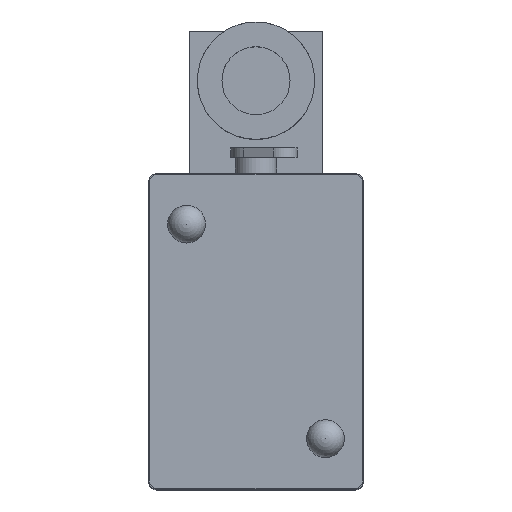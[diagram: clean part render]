
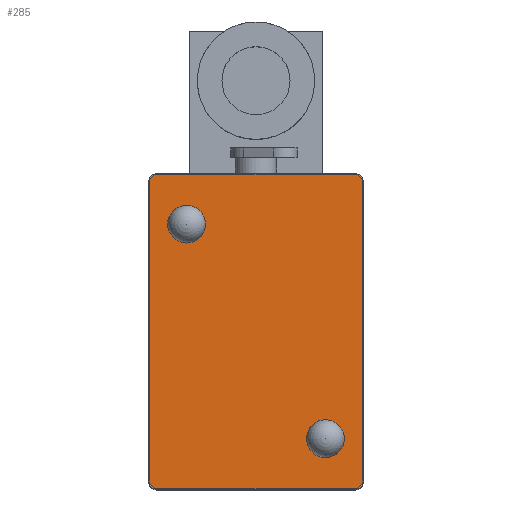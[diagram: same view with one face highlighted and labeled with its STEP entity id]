
A CAD part, top view. The second image highlights one B-rep face of the part: STEP entity #285.
In plain terms, the highlighted planar face has unit normal (0, 0, 1).
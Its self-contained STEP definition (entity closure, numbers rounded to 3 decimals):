
#285 = ADVANCED_FACE( '', ( #621, #622, #623 ), #624, .T. );
#621 = FACE_BOUND( '', #978, .T. );
#622 = FACE_BOUND( '', #979, .T. );
#623 = FACE_OUTER_BOUND( '', #980, .T. );
#624 = PLANE( '', #981 );
#978 = EDGE_LOOP( '', ( #1646 ) );
#979 = EDGE_LOOP( '', ( #1647 ) );
#980 = EDGE_LOOP( '', ( #1648, #1649, #1650, #1651, #1652, #1653, #1654, #1655 ) );
#981 = AXIS2_PLACEMENT_3D( '', #1656, #1657, #1658 );
#1646 = ORIENTED_EDGE( '', *, *, #2001, .T. );
#1647 = ORIENTED_EDGE( '', *, *, #1978, .T. );
#1648 = ORIENTED_EDGE( '', *, *, #2125, .T. );
#1649 = ORIENTED_EDGE( '', *, *, #2126, .T. );
#1650 = ORIENTED_EDGE( '', *, *, #1981, .T. );
#1651 = ORIENTED_EDGE( '', *, *, #2004, .T. );
#1652 = ORIENTED_EDGE( '', *, *, #2024, .T. );
#1653 = ORIENTED_EDGE( '', *, *, #1885, .T. );
#1654 = ORIENTED_EDGE( '', *, *, #1898, .T. );
#1655 = ORIENTED_EDGE( '', *, *, #2127, .T. );
#1656 = CARTESIAN_POINT( '', ( -15.7, 23.7, 10. ) );
#1657 = DIRECTION( '', ( 0., 0., 1. ) );
#1658 = DIRECTION( '', ( 1., 0., 0. ) );
#1885 = EDGE_CURVE( '', #2206, #2204, #2207, .T. );
#1898 = EDGE_CURVE( '', #2204, #2226, #2228, .T. );
#1978 = EDGE_CURVE( '', #2367, #2367, #2368, .T. );
#1981 = EDGE_CURVE( '', #2372, #2370, #2373, .T. );
#2001 = EDGE_CURVE( '', #2403, #2403, #2404, .T. );
#2004 = EDGE_CURVE( '', #2370, #2406, #2408, .T. );
#2024 = EDGE_CURVE( '', #2406, #2206, #2437, .T. );
#2125 = EDGE_CURVE( '', #2569, #2570, #2571, .T. );
#2126 = EDGE_CURVE( '', #2570, #2372, #2572, .T. );
#2127 = EDGE_CURVE( '', #2226, #2569, #2573, .T. );
#2204 = VERTEX_POINT( '', #2714 );
#2206 = VERTEX_POINT( '', #2717 );
#2207 = LINE( '', #2718, #2719 );
#2226 = VERTEX_POINT( '', #2741 );
#2228 = CIRCLE( '', #2744, 1.2 );
#2367 = VERTEX_POINT( '', #2919 );
#2368 = CIRCLE( '', #2920, 3. );
#2370 = VERTEX_POINT( '', #2922 );
#2372 = VERTEX_POINT( '', #2925 );
#2373 = CIRCLE( '', #2926, 1.2 );
#2403 = VERTEX_POINT( '', #2960 );
#2404 = CIRCLE( '', #2961, 3. );
#2406 = VERTEX_POINT( '', #2963 );
#2408 = LINE( '', #2966, #2967 );
#2437 = CIRCLE( '', #3026, 1.2 );
#2569 = VERTEX_POINT( '', #3251 );
#2570 = VERTEX_POINT( '', #3252 );
#2571 = CIRCLE( '', #3253, 1.2 );
#2572 = LINE( '', #3254, #3255 );
#2573 = LINE( '', #3256, #3257 );
#2714 = CARTESIAN_POINT( '', ( 16.9, 23.7, 10. ) );
#2717 = CARTESIAN_POINT( '', ( 16.9, -23.7, 10. ) );
#2718 = CARTESIAN_POINT( '', ( 16.9, -23.7, 10. ) );
#2719 = VECTOR( '', #3342, 1000. );
#2741 = CARTESIAN_POINT( '', ( 15.7, 24.9, 10. ) );
#2744 = AXIS2_PLACEMENT_3D( '', #3362, #3363, #3364 );
#2919 = CARTESIAN_POINT( '', ( -14., 17., 10. ) );
#2920 = AXIS2_PLACEMENT_3D( '', #3482, #3483, #3484 );
#2922 = CARTESIAN_POINT( '', ( -15.7, -24.9, 10. ) );
#2925 = CARTESIAN_POINT( '', ( -16.9, -23.7, 10. ) );
#2926 = AXIS2_PLACEMENT_3D( '', #3486, #3487, #3488 );
#2960 = CARTESIAN_POINT( '', ( 8., -17., 10. ) );
#2961 = AXIS2_PLACEMENT_3D( '', #3520, #3521, #3522 );
#2963 = CARTESIAN_POINT( '', ( 15.7, -24.9, 10. ) );
#2966 = CARTESIAN_POINT( '', ( -15.7, -24.9, 10. ) );
#2967 = VECTOR( '', #3524, 1000. );
#3026 = AXIS2_PLACEMENT_3D( '', #3549, #3550, #3551 );
#3251 = CARTESIAN_POINT( '', ( -15.7, 24.9, 10. ) );
#3252 = CARTESIAN_POINT( '', ( -16.9, 23.7, 10. ) );
#3253 = AXIS2_PLACEMENT_3D( '', #3656, #3657, #3658 );
#3254 = CARTESIAN_POINT( '', ( -16.9, 23.7, 10. ) );
#3255 = VECTOR( '', #3659, 1000. );
#3256 = CARTESIAN_POINT( '', ( 15.7, 24.9, 10. ) );
#3257 = VECTOR( '', #3660, 1000. );
#3342 = DIRECTION( '', ( 0., 1., 0. ) );
#3362 = CARTESIAN_POINT( '', ( 15.7, 23.7, 10. ) );
#3363 = DIRECTION( '', ( 0., 0., 1. ) );
#3364 = DIRECTION( '', ( 1., 0., 0. ) );
#3482 = CARTESIAN_POINT( '', ( -11., 17., 10. ) );
#3483 = DIRECTION( '', ( 0., 0., -1. ) );
#3484 = DIRECTION( '', ( -1., 0., 0. ) );
#3486 = CARTESIAN_POINT( '', ( -15.7, -23.7, 10. ) );
#3487 = DIRECTION( '', ( 0., 0., 1. ) );
#3488 = DIRECTION( '', ( 1., 0., 0. ) );
#3520 = CARTESIAN_POINT( '', ( 11., -17., 10. ) );
#3521 = DIRECTION( '', ( 0., 0., -1. ) );
#3522 = DIRECTION( '', ( -1., 0., 0. ) );
#3524 = DIRECTION( '', ( 1., 0., 0. ) );
#3549 = CARTESIAN_POINT( '', ( 15.7, -23.7, 10. ) );
#3550 = DIRECTION( '', ( 0., 0., 1. ) );
#3551 = DIRECTION( '', ( 1., 0., 0. ) );
#3656 = CARTESIAN_POINT( '', ( -15.7, 23.7, 10. ) );
#3657 = DIRECTION( '', ( 0., 0., 1. ) );
#3658 = DIRECTION( '', ( 1., 0., 0. ) );
#3659 = DIRECTION( '', ( 0., -1., 0. ) );
#3660 = DIRECTION( '', ( -1., 0., 0. ) );
